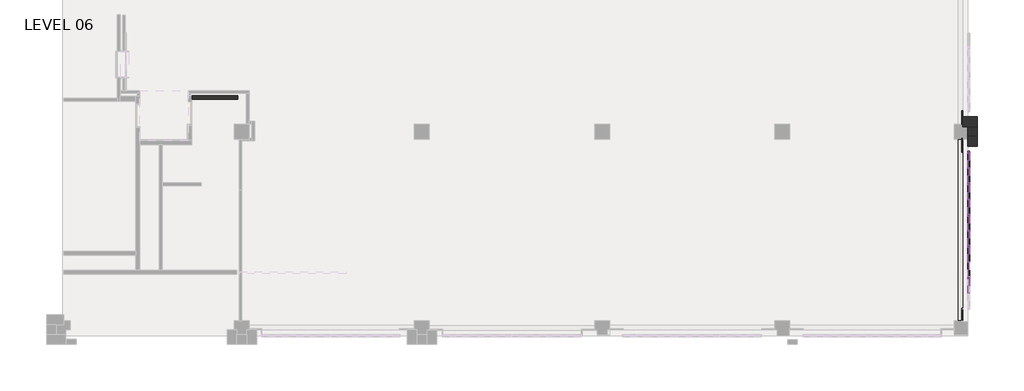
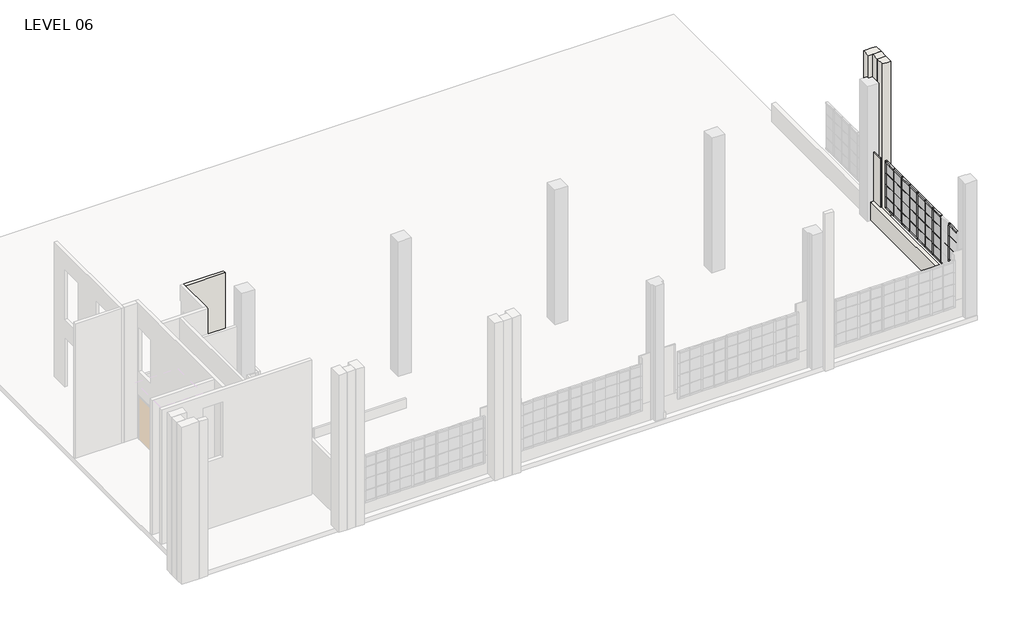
# One storey, part 8 of 16: 79 members, 28 plates, 8 walls.
"""IFC4 building model written with IfcOpenShell, lengths in millimetres."""

from ifc_helpers import new_model, si_unit, frame, origin, place, context, project, spatial, polyline, outline, extrude, faceted_brep, transform, mapped, element, save
from components import member_78bb2ef1, member_bfca4c7d, member_a85bf1d9, member_281dc502, member_68141a5f, member_378e0c06, member_17eb62f4, member_a415275a, member_6dd33a74, member_5f3aadc6, member_e5d968b1, system_panel_glazed_a8cc2c5f, system_panel_glazed_d94367f6, system_panel_glazed_d0043e3c, system_panel_glazed_2b9672ea, system_panel_glazed_0a79d3c6, system_panel_glazed_70833e41, system_panel_glazed_c8d1af00, system_panel_glazed_2e7df24a

model = new_model("IFC4")

# Units and contexts
model_context = context("Model", 3, world=origin())
ifc_project = project(units=[si_unit("LENGTHUNIT", "METRE", prefix="MILLI")], contexts=[model_context])

# Site, building, storey
site = spatial("IfcSite", under=ifc_project)
building = spatial("IfcBuilding", under=site)
storey = spatial("IfcBuildingStorey", under=building, Name="LEVEL 06", Elevation=17449.8)

# Members
placement = place(None, origin())
member_shape = member_78bb2ef1(model_context)
element("IfcMember", 1, ObjectType="Rectangular Mullion : 1\" x 1\" - Butt Joint", at=placement, inside=storey, context=model_context, shape_type="MappedRepresentation", body=[
    mapped(member_shape, transform((-445.6849596, -22116.6772314, 19989.8), x_axis=(0.0, 1.0, 0.0), y_axis=(1.0, 0.0, 0.0), z_axis=(0.0, 0.0, -1.0))),
])
element("IfcMember", 2, ObjectType="Rectangular Mullion : 1\" x 1\" - Butt Joint", at=placement, inside=storey, context=model_context, shape_type="MappedRepresentation", body=[
    mapped(member_shape, transform((-445.6849596, -20845.4072314, 19989.8), x_axis=(0.0, 1.0, 0.0), y_axis=(1.0, 0.0, 0.0), z_axis=(0.0, 0.0, -1.0))),
])
element("IfcMember", 3, ObjectType="Rectangular Mullion : 1\" x 1\" - Butt Joint", at=placement, inside=storey, context=model_context, shape_type="MappedRepresentation", body=[
    mapped(member_shape, transform((-445.6849596, -19574.1372314, 19989.8), x_axis=(0.0, 1.0, 0.0), y_axis=(1.0, 0.0, 0.0), z_axis=(0.0, 0.0, -1.0))),
])
element("IfcMember", 4, ObjectType="Rectangular Mullion : 1\" x 1\" - Butt Joint", at=placement, inside=storey, context=model_context, shape_type="MappedRepresentation", body=[
    mapped(member_shape, transform((-445.6849596, -18283.8172314, 19989.8), x_axis=(0.0, 1.0, 0.0), y_axis=(1.0, 0.0, 0.0), z_axis=(0.0, 0.0, -1.0))),
])
element("IfcMember", 5, ObjectType="Rectangular Mullion : 1\" x 1\" - Butt Joint", at=placement, inside=storey, context=model_context, shape_type="MappedRepresentation", body=[
    mapped(member_shape, transform((-445.6849596, -22116.6772314, 18821.4), x_axis=(0.0, 1.0, 0.0), y_axis=(1.0, 0.0, 0.0), z_axis=(0.0, 0.0, -1.0))),
])
element("IfcMember", 6, ObjectType="Rectangular Mullion : 1\" x 1\" - Butt Joint", at=placement, inside=storey, context=model_context, shape_type="MappedRepresentation", body=[
    mapped(member_shape, transform((-445.6849596, -22116.6772314, 19405.6), x_axis=(0.0, 1.0, 0.0), y_axis=(1.0, 0.0, 0.0), z_axis=(0.0, 0.0, -1.0))),
])
element("IfcMember", 7, ObjectType="Rectangular Mullion : 1\" x 1\" - Butt Joint", at=placement, inside=storey, context=model_context, shape_type="MappedRepresentation", body=[
    mapped(member_shape, transform((-445.6849596, -20845.4072314, 18821.4), x_axis=(0.0, 1.0, 0.0), y_axis=(1.0, 0.0, 0.0), z_axis=(0.0, 0.0, -1.0))),
])
element("IfcMember", 8, ObjectType="Rectangular Mullion : 1\" x 1\" - Butt Joint", at=placement, inside=storey, context=model_context, shape_type="MappedRepresentation", body=[
    mapped(member_shape, transform((-445.6849596, -20845.4072314, 19405.6), x_axis=(0.0, 1.0, 0.0), y_axis=(1.0, 0.0, 0.0), z_axis=(0.0, 0.0, -1.0))),
])
element("IfcMember", 9, ObjectType="Rectangular Mullion : 1\" x 1\" - Butt Joint", at=placement, inside=storey, context=model_context, shape_type="MappedRepresentation", body=[
    mapped(member_shape, transform((-445.6849596, -19574.1372314, 18821.4), x_axis=(0.0, 1.0, 0.0), y_axis=(1.0, 0.0, 0.0), z_axis=(0.0, 0.0, -1.0))),
])
element("IfcMember", 10, ObjectType="Rectangular Mullion : 1\" x 1\" - Butt Joint", at=placement, inside=storey, context=model_context, shape_type="MappedRepresentation", body=[
    mapped(member_shape, transform((-445.6849596, -19574.1372314, 19405.6), x_axis=(0.0, 1.0, 0.0), y_axis=(1.0, 0.0, 0.0), z_axis=(0.0, 0.0, -1.0))),
])
element("IfcMember", 11, ObjectType="Rectangular Mullion : 1\" x 1\" - Butt Joint", at=placement, inside=storey, context=model_context, shape_type="MappedRepresentation", body=[
    mapped(member_shape, transform((-445.6849596, -18283.8172314, 18821.4), x_axis=(0.0, 1.0, 0.0), y_axis=(1.0, 0.0, 0.0), z_axis=(0.0, 0.0, -1.0))),
])
element("IfcMember", 12, ObjectType="Rectangular Mullion : 1\" x 1\" - Butt Joint", at=placement, inside=storey, context=model_context, shape_type="MappedRepresentation", body=[
    mapped(member_shape, transform((-445.6849596, -18283.8172314, 19405.6), x_axis=(0.0, 1.0, 0.0), y_axis=(1.0, 0.0, 0.0), z_axis=(0.0, 0.0, -1.0))),
])
element("IfcMember", 13, ObjectType="Rectangular Mullion : 1\" x 1\" - Butt Joint", at=placement, inside=storey, context=model_context, shape_type="MappedRepresentation", body=[
    mapped(member_shape, transform((-445.6849596, -22116.6772314, 18237.2), x_axis=(0.0, 1.0, 0.0), y_axis=(1.0, 0.0, 0.0), z_axis=(0.0, 0.0, -1.0))),
])
element("IfcMember", 14, ObjectType="Rectangular Mullion : 1\" x 1\" - Butt Joint", at=placement, inside=storey, context=model_context, shape_type="MappedRepresentation", body=[
    mapped(member_shape, transform((-445.6849596, -20845.4072314, 18237.2), x_axis=(0.0, 1.0, 0.0), y_axis=(1.0, 0.0, 0.0), z_axis=(0.0, 0.0, -1.0))),
])
element("IfcMember", 15, ObjectType="Rectangular Mullion : 1\" x 1\" - Butt Joint", at=placement, inside=storey, context=model_context, shape_type="MappedRepresentation", body=[
    mapped(member_shape, transform((-445.6849596, -19574.1372314, 18237.2), x_axis=(0.0, 1.0, 0.0), y_axis=(1.0, 0.0, 0.0), z_axis=(0.0, 0.0, -1.0))),
])
element("IfcMember", 16, ObjectType="Rectangular Mullion : 1\" x 1\" - Butt Joint", at=placement, inside=storey, context=model_context, shape_type="MappedRepresentation", body=[
    mapped(member_shape, transform((-445.6849596, -18283.8172314, 18237.2), x_axis=(0.0, 1.0, 0.0), y_axis=(1.0, 0.0, 0.0), z_axis=(0.0, 0.0, -1.0))),
])
member_2_shape = member_bfca4c7d(model_context)
element("IfcMember", 17, ObjectType="Rectangular Mullion : 1\" x 1\" - Butt Joint", at=placement, inside=storey, context=model_context, shape_type="MappedRepresentation", body=[
    mapped(member_2_shape, transform((-445.6849596, -17676.7572314, 19989.8), x_axis=(0.0, 0.0, 1.0), y_axis=(1.0, 0.0, 0.0), z_axis=(0.0, 1.0, 0.0))),
])
element("IfcMember", 18, ObjectType="Rectangular Mullion : 1\" x 1\" - Butt Joint", at=placement, inside=storey, context=model_context, shape_type="MappedRepresentation", body=[
    mapped(member_2_shape, transform((-445.6849596, -18967.0772314, 19989.8), x_axis=(0.0, 0.0, 1.0), y_axis=(1.0, 0.0, 0.0), z_axis=(0.0, 1.0, 0.0))),
])
element("IfcMember", 19, ObjectType="Rectangular Mullion : 1\" x 1\" - Butt Joint", at=placement, inside=storey, context=model_context, shape_type="MappedRepresentation", body=[
    mapped(member_2_shape, transform((-445.6849596, -21509.6172314, 19989.8), x_axis=(0.0, 0.0, 1.0), y_axis=(1.0, 0.0, 0.0), z_axis=(0.0, 1.0, 0.0))),
])
element("IfcMember", 20, ObjectType="Rectangular Mullion : 1\" x 1\" - Butt Joint", at=placement, inside=storey, context=model_context, shape_type="MappedRepresentation", body=[
    mapped(member_2_shape, transform((-445.6849596, -22799.9372314, 19989.8), x_axis=(0.0, 0.0, 1.0), y_axis=(1.0, 0.0, 0.0), z_axis=(0.0, 1.0, 0.0))),
])
element("IfcMember", 21, ObjectType="Rectangular Mullion : 1\" x 1\" - Butt Joint", at=placement, inside=storey, context=model_context, shape_type="MappedRepresentation", body=[
    mapped(member_2_shape, transform((-445.6849596, -18296.5172314, 19989.8), x_axis=(0.0, 0.0, 1.0), y_axis=(1.0, 0.0, 0.0), z_axis=(0.0, 1.0, 0.0))),
])
element("IfcMember", 22, ObjectType="Rectangular Mullion : 1\" x 1\" - Butt Joint", at=placement, inside=storey, context=model_context, shape_type="MappedRepresentation", body=[
    mapped(member_2_shape, transform((-445.6849596, -22129.3772314, 19989.8), x_axis=(0.0, 0.0, 1.0), y_axis=(1.0, 0.0, 0.0), z_axis=(0.0, 1.0, 0.0))),
])
element("IfcMember", 23, ObjectType="Rectangular Mullion : 1\" x 1\" - Butt Joint", at=placement, inside=storey, context=model_context, shape_type="MappedRepresentation", body=[
    mapped(member_2_shape, transform((-445.6849596, -17676.7572314, 19405.6), x_axis=(0.0, 0.0, 1.0), y_axis=(1.0, 0.0, 0.0), z_axis=(0.0, 1.0, 0.0))),
])
element("IfcMember", 24, ObjectType="Rectangular Mullion : 1\" x 1\" - Butt Joint", at=placement, inside=storey, context=model_context, shape_type="MappedRepresentation", body=[
    mapped(member_2_shape, transform((-445.6849596, -18967.0772314, 19405.6), x_axis=(0.0, 0.0, 1.0), y_axis=(1.0, 0.0, 0.0), z_axis=(0.0, 1.0, 0.0))),
])
element("IfcMember", 25, ObjectType="Rectangular Mullion : 1\" x 1\" - Butt Joint", at=placement, inside=storey, context=model_context, shape_type="MappedRepresentation", body=[
    mapped(member_2_shape, transform((-445.6849596, -21509.6172314, 19405.6), x_axis=(0.0, 0.0, 1.0), y_axis=(1.0, 0.0, 0.0), z_axis=(0.0, 1.0, 0.0))),
])
element("IfcMember", 26, ObjectType="Rectangular Mullion : 1\" x 1\" - Butt Joint", at=placement, inside=storey, context=model_context, shape_type="MappedRepresentation", body=[
    mapped(member_2_shape, transform((-445.6849596, -22799.9372314, 19405.6), x_axis=(0.0, 0.0, 1.0), y_axis=(1.0, 0.0, 0.0), z_axis=(0.0, 1.0, 0.0))),
])
element("IfcMember", 27, ObjectType="Rectangular Mullion : 1\" x 1\" - Butt Joint", at=placement, inside=storey, context=model_context, shape_type="MappedRepresentation", body=[
    mapped(member_2_shape, transform((-445.6849596, -18296.5172314, 19405.6), x_axis=(0.0, 0.0, 1.0), y_axis=(1.0, 0.0, 0.0), z_axis=(0.0, 1.0, 0.0))),
])
element("IfcMember", 28, ObjectType="Rectangular Mullion : 1\" x 1\" - Butt Joint", at=placement, inside=storey, context=model_context, shape_type="MappedRepresentation", body=[
    mapped(member_2_shape, transform((-445.6849596, -22129.3772314, 19405.6), x_axis=(0.0, 0.0, 1.0), y_axis=(1.0, 0.0, 0.0), z_axis=(0.0, 1.0, 0.0))),
])
element("IfcMember", 29, ObjectType="Rectangular Mullion : 1\" x 1\" - Butt Joint", at=placement, inside=storey, context=model_context, shape_type="MappedRepresentation", body=[
    mapped(member_2_shape, transform((-445.6849596, -17676.7572314, 18821.4), x_axis=(0.0, 0.0, 1.0), y_axis=(1.0, 0.0, 0.0), z_axis=(0.0, 1.0, 0.0))),
])
element("IfcMember", 30, ObjectType="Rectangular Mullion : 1\" x 1\" - Butt Joint", at=placement, inside=storey, context=model_context, shape_type="MappedRepresentation", body=[
    mapped(member_2_shape, transform((-445.6849596, -18967.0772314, 18821.4), x_axis=(0.0, 0.0, 1.0), y_axis=(1.0, 0.0, 0.0), z_axis=(0.0, 1.0, 0.0))),
])
element("IfcMember", 31, ObjectType="Rectangular Mullion : 1\" x 1\" - Butt Joint", at=placement, inside=storey, context=model_context, shape_type="MappedRepresentation", body=[
    mapped(member_2_shape, transform((-445.6849596, -21509.6172314, 18821.4), x_axis=(0.0, 0.0, 1.0), y_axis=(1.0, 0.0, 0.0), z_axis=(0.0, 1.0, 0.0))),
])
element("IfcMember", 32, ObjectType="Rectangular Mullion : 1\" x 1\" - Butt Joint", at=placement, inside=storey, context=model_context, shape_type="MappedRepresentation", body=[
    mapped(member_2_shape, transform((-445.6849596, -22799.9372314, 18821.4), x_axis=(0.0, 0.0, 1.0), y_axis=(1.0, 0.0, 0.0), z_axis=(0.0, 1.0, 0.0))),
])
element("IfcMember", 33, ObjectType="Rectangular Mullion : 1\" x 1\" - Butt Joint", at=placement, inside=storey, context=model_context, shape_type="MappedRepresentation", body=[
    mapped(member_2_shape, transform((-445.6849596, -18296.5172314, 18821.4), x_axis=(0.0, 0.0, 1.0), y_axis=(1.0, 0.0, 0.0), z_axis=(0.0, 1.0, 0.0))),
])
element("IfcMember", 34, ObjectType="Rectangular Mullion : 1\" x 1\" - Butt Joint", at=placement, inside=storey, context=model_context, shape_type="MappedRepresentation", body=[
    mapped(member_2_shape, transform((-445.6849596, -22129.3772314, 18821.4), x_axis=(0.0, 0.0, 1.0), y_axis=(1.0, 0.0, 0.0), z_axis=(0.0, 1.0, 0.0))),
])
member_3_shape = member_a85bf1d9(model_context)
element("IfcMember", 35, ObjectType="Rectangular Mullion : 1\" x 1\" - Butt Joint", at=placement, inside=storey, context=model_context, shape_type="MappedRepresentation", body=[
    mapped(member_3_shape, transform((-445.6849596, -20858.1072314, 19989.8), x_axis=(0.0, 0.0, 1.0), y_axis=(1.0, 0.0, 0.0), z_axis=(0.0, 1.0, 0.0))),
])
element("IfcMember", 36, ObjectType="Rectangular Mullion : 1\" x 1\" - Butt Joint", at=placement, inside=storey, context=model_context, shape_type="MappedRepresentation", body=[
    mapped(member_3_shape, transform((-445.6849596, -20858.1072314, 19405.6), x_axis=(0.0, 0.0, 1.0), y_axis=(1.0, 0.0, 0.0), z_axis=(0.0, 1.0, 0.0))),
])
element("IfcMember", 37, ObjectType="Rectangular Mullion : 1\" x 1\" - Butt Joint", at=placement, inside=storey, context=model_context, shape_type="MappedRepresentation", body=[
    mapped(member_3_shape, transform((-445.6849596, -20858.1072314, 18821.4), x_axis=(0.0, 0.0, 1.0), y_axis=(1.0, 0.0, 0.0), z_axis=(0.0, 1.0, 0.0))),
])
member_4_shape = member_281dc502(model_context)
element("IfcMember", 38, ObjectType="Rectangular Mullion : 1\" x 1\" - Butt Joint", at=placement, inside=storey, context=model_context, shape_type="MappedRepresentation", body=[
    mapped(member_4_shape, transform((-445.6849596, -20244.6972314, 19989.8), x_axis=(0.0, 0.0, 1.0), y_axis=(1.0, 0.0, 0.0), z_axis=(0.0, 1.0, 0.0))),
])
element("IfcMember", 39, ObjectType="Rectangular Mullion : 1\" x 1\" - Butt Joint", at=placement, inside=storey, context=model_context, shape_type="MappedRepresentation", body=[
    mapped(member_4_shape, transform((-445.6849596, -20244.6972314, 19405.6), x_axis=(0.0, 0.0, 1.0), y_axis=(1.0, 0.0, 0.0), z_axis=(0.0, 1.0, 0.0))),
])
element("IfcMember", 40, ObjectType="Rectangular Mullion : 1\" x 1\" - Butt Joint", at=placement, inside=storey, context=model_context, shape_type="MappedRepresentation", body=[
    mapped(member_4_shape, transform((-445.6849596, -20244.6972314, 18821.4), x_axis=(0.0, 0.0, 1.0), y_axis=(1.0, 0.0, 0.0), z_axis=(0.0, 1.0, 0.0))),
])
member_5_shape = member_68141a5f(model_context)
element("IfcMember", 41, ObjectType="Rectangular Mullion : 1\" x 1\" - Butt Joint", at=placement, inside=storey, context=model_context, shape_type="MappedRepresentation", body=[
    mapped(member_5_shape, transform((-445.6849596, -19586.8372314, 19989.8), x_axis=(0.0, 0.0, 1.0), y_axis=(1.0, 0.0, 0.0), z_axis=(0.0, 1.0, 0.0))),
])
element("IfcMember", 42, ObjectType="Rectangular Mullion : 1\" x 1\" - Butt Joint", at=placement, inside=storey, context=model_context, shape_type="MappedRepresentation", body=[
    mapped(member_5_shape, transform((-445.6849596, -19586.8372314, 19405.6), x_axis=(0.0, 0.0, 1.0), y_axis=(1.0, 0.0, 0.0), z_axis=(0.0, 1.0, 0.0))),
])
element("IfcMember", 43, ObjectType="Rectangular Mullion : 1\" x 1\" - Butt Joint", at=placement, inside=storey, context=model_context, shape_type="MappedRepresentation", body=[
    mapped(member_5_shape, transform((-445.6849596, -19586.8372314, 18821.4), x_axis=(0.0, 0.0, 1.0), y_axis=(1.0, 0.0, 0.0), z_axis=(0.0, 1.0, 0.0))),
])
member_6_shape = member_378e0c06(model_context)
element("IfcMember", 44, ObjectType="Rectangular Mullion : 3\" x 3\" Window Jamb", at=placement, inside=storey, context=model_context, shape_type="MappedRepresentation", body=[
    mapped(member_6_shape, transform((-445.6849596, -22761.8372314, 19989.8), x_axis=(0.0, 1.0, 0.0), y_axis=(1.0, 0.0, 0.0), z_axis=(0.0, 0.0, -1.0))),
])
element("IfcMember", 45, ObjectType="Rectangular Mullion : 3\" x 3\" Window Jamb", at=placement, inside=storey, context=model_context, shape_type="MappedRepresentation", body=[
    mapped(member_6_shape, transform((-445.6849596, -21471.5172314, 19989.8), x_axis=(0.0, 1.0, 0.0), y_axis=(1.0, 0.0, 0.0), z_axis=(0.0, 0.0, -1.0))),
])
element("IfcMember", 46, ObjectType="Rectangular Mullion : 3\" x 3\" Window Jamb", at=placement, inside=storey, context=model_context, shape_type="MappedRepresentation", body=[
    mapped(member_6_shape, transform((-445.6849596, -20206.5972314, 19989.8), x_axis=(0.0, 1.0, 0.0), y_axis=(1.0, 0.0, 0.0), z_axis=(0.0, 0.0, -1.0))),
])
element("IfcMember", 47, ObjectType="Rectangular Mullion : 3\" x 3\" Window Jamb", at=placement, inside=storey, context=model_context, shape_type="MappedRepresentation", body=[
    mapped(member_6_shape, transform((-445.6849596, -18928.9772314, 19989.8), x_axis=(0.0, 1.0, 0.0), y_axis=(1.0, 0.0, 0.0), z_axis=(0.0, 0.0, -1.0))),
])
member_7_shape = member_17eb62f4(model_context)
element("IfcMember", 48, ObjectType="Rectangular Mullion : 3\" x 3\" Window Jamb", at=placement, inside=storey, context=model_context, shape_type="MappedRepresentation", body=[
    mapped(member_7_shape, transform((-445.6849596, -17600.5572314, 19989.8), x_axis=(0.0, 1.0, 0.0), y_axis=(1.0, 0.0, 0.0), z_axis=(0.0, 0.0, -1.0))),
])
element("IfcMember", 49, ObjectType="Rectangular Mullion : 3\" x 3\" Window Jamb", at=placement, inside=storey, context=model_context, shape_type="MappedRepresentation", body=[
    mapped(member_6_shape, transform((-445.6849596, -22761.8372314, 18821.4), x_axis=(0.0, 1.0, 0.0), y_axis=(1.0, 0.0, 0.0), z_axis=(0.0, 0.0, -1.0))),
])
element("IfcMember", 50, ObjectType="Rectangular Mullion : 3\" x 3\" Window Jamb", at=placement, inside=storey, context=model_context, shape_type="MappedRepresentation", body=[
    mapped(member_6_shape, transform((-445.6849596, -22761.8372314, 19405.6), x_axis=(0.0, 1.0, 0.0), y_axis=(1.0, 0.0, 0.0), z_axis=(0.0, 0.0, -1.0))),
])
element("IfcMember", 51, ObjectType="Rectangular Mullion : 3\" x 3\" Window Jamb", at=placement, inside=storey, context=model_context, shape_type="MappedRepresentation", body=[
    mapped(member_6_shape, transform((-445.6849596, -21471.5172314, 18821.4), x_axis=(0.0, 1.0, 0.0), y_axis=(1.0, 0.0, 0.0), z_axis=(0.0, 0.0, -1.0))),
])
element("IfcMember", 52, ObjectType="Rectangular Mullion : 3\" x 3\" Window Jamb", at=placement, inside=storey, context=model_context, shape_type="MappedRepresentation", body=[
    mapped(member_6_shape, transform((-445.6849596, -21471.5172314, 19405.6), x_axis=(0.0, 1.0, 0.0), y_axis=(1.0, 0.0, 0.0), z_axis=(0.0, 0.0, -1.0))),
])
element("IfcMember", 53, ObjectType="Rectangular Mullion : 3\" x 3\" Window Jamb", at=placement, inside=storey, context=model_context, shape_type="MappedRepresentation", body=[
    mapped(member_6_shape, transform((-445.6849596, -20206.5972314, 18821.4), x_axis=(0.0, 1.0, 0.0), y_axis=(1.0, 0.0, 0.0), z_axis=(0.0, 0.0, -1.0))),
])
element("IfcMember", 54, ObjectType="Rectangular Mullion : 3\" x 3\" Window Jamb", at=placement, inside=storey, context=model_context, shape_type="MappedRepresentation", body=[
    mapped(member_6_shape, transform((-445.6849596, -20206.5972314, 19405.6), x_axis=(0.0, 1.0, 0.0), y_axis=(1.0, 0.0, 0.0), z_axis=(0.0, 0.0, -1.0))),
])
element("IfcMember", 55, ObjectType="Rectangular Mullion : 3\" x 3\" Window Jamb", at=placement, inside=storey, context=model_context, shape_type="MappedRepresentation", body=[
    mapped(member_6_shape, transform((-445.6849596, -18928.9772314, 18821.4), x_axis=(0.0, 1.0, 0.0), y_axis=(1.0, 0.0, 0.0), z_axis=(0.0, 0.0, -1.0))),
])
element("IfcMember", 56, ObjectType="Rectangular Mullion : 3\" x 3\" Window Jamb", at=placement, inside=storey, context=model_context, shape_type="MappedRepresentation", body=[
    mapped(member_6_shape, transform((-445.6849596, -18928.9772314, 19405.6), x_axis=(0.0, 1.0, 0.0), y_axis=(1.0, 0.0, 0.0), z_axis=(0.0, 0.0, -1.0))),
])
element("IfcMember", 57, ObjectType="Rectangular Mullion : 3\" x 3\" Window Jamb", at=placement, inside=storey, context=model_context, shape_type="MappedRepresentation", body=[
    mapped(member_7_shape, transform((-445.6849596, -17600.5572314, 18821.4), x_axis=(0.0, 1.0, 0.0), y_axis=(1.0, 0.0, 0.0), z_axis=(0.0, 0.0, -1.0))),
])
element("IfcMember", 58, ObjectType="Rectangular Mullion : 3\" x 3\" Window Jamb", at=placement, inside=storey, context=model_context, shape_type="MappedRepresentation", body=[
    mapped(member_7_shape, transform((-445.6849596, -17600.5572314, 19405.6), x_axis=(0.0, 1.0, 0.0), y_axis=(1.0, 0.0, 0.0), z_axis=(0.0, 0.0, -1.0))),
])
element("IfcMember", 59, ObjectType="Rectangular Mullion : 3\" x 3\" Window Jamb", at=placement, inside=storey, context=model_context, shape_type="MappedRepresentation", body=[
    mapped(member_6_shape, transform((-445.6849596, -22761.8372314, 18237.2), x_axis=(0.0, 1.0, 0.0), y_axis=(1.0, 0.0, 0.0), z_axis=(0.0, 0.0, -1.0))),
])
element("IfcMember", 60, ObjectType="Rectangular Mullion : 3\" x 3\" Window Jamb", at=placement, inside=storey, context=model_context, shape_type="MappedRepresentation", body=[
    mapped(member_6_shape, transform((-445.6849596, -21471.5172314, 18237.2), x_axis=(0.0, 1.0, 0.0), y_axis=(1.0, 0.0, 0.0), z_axis=(0.0, 0.0, -1.0))),
])
element("IfcMember", 61, ObjectType="Rectangular Mullion : 3\" x 3\" Window Jamb", at=placement, inside=storey, context=model_context, shape_type="MappedRepresentation", body=[
    mapped(member_6_shape, transform((-445.6849596, -20206.5972314, 18237.2), x_axis=(0.0, 1.0, 0.0), y_axis=(1.0, 0.0, 0.0), z_axis=(0.0, 0.0, -1.0))),
])
element("IfcMember", 62, ObjectType="Rectangular Mullion : 3\" x 3\" Window Jamb", at=placement, inside=storey, context=model_context, shape_type="MappedRepresentation", body=[
    mapped(member_6_shape, transform((-445.6849596, -18928.9772314, 18237.2), x_axis=(0.0, 1.0, 0.0), y_axis=(1.0, 0.0, 0.0), z_axis=(0.0, 0.0, -1.0))),
])
element("IfcMember", 63, ObjectType="Rectangular Mullion : 3\" x 3\" Window Jamb", at=placement, inside=storey, context=model_context, shape_type="MappedRepresentation", body=[
    mapped(member_7_shape, transform((-445.6849596, -17600.5572314, 18237.2), x_axis=(0.0, 1.0, 0.0), y_axis=(1.0, 0.0, 0.0), z_axis=(0.0, 0.0, -1.0))),
])
member_8_shape = member_a415275a(model_context)
element("IfcMember", 64, ObjectType="Rectangular Mullion : 3\" x 3\" Window Jamb", at=placement, inside=storey, context=model_context, shape_type="MappedRepresentation", body=[
    mapped(member_8_shape, transform((-445.6849596, -18296.5172314, 20574.0), x_axis=(0.0, 0.0, 1.0), y_axis=(1.0, 0.0, 0.0), z_axis=(0.0, 1.0, 0.0))),
])
element("IfcMember", 65, ObjectType="Rectangular Mullion : 3\" x 3\" Window Jamb", at=placement, inside=storey, context=model_context, shape_type="MappedRepresentation", body=[
    mapped(member_8_shape, transform((-445.6849596, -18967.0772314, 20574.0), x_axis=(0.0, 0.0, 1.0), y_axis=(1.0, 0.0, 0.0), z_axis=(0.0, 1.0, 0.0))),
])
element("IfcMember", 66, ObjectType="Rectangular Mullion : 3\" x 3\" Window Jamb", at=placement, inside=storey, context=model_context, shape_type="MappedRepresentation", body=[
    mapped(member_8_shape, transform((-445.6849596, -21509.6172314, 20574.0), x_axis=(0.0, 0.0, 1.0), y_axis=(1.0, 0.0, 0.0), z_axis=(0.0, 1.0, 0.0))),
])
element("IfcMember", 67, ObjectType="Rectangular Mullion : 3\" x 3\" Window Jamb", at=placement, inside=storey, context=model_context, shape_type="MappedRepresentation", body=[
    mapped(member_8_shape, transform((-445.6849596, -22799.9372314, 20574.0), x_axis=(0.0, 0.0, 1.0), y_axis=(1.0, 0.0, 0.0), z_axis=(0.0, 1.0, 0.0))),
])
element("IfcMember", 68, ObjectType="Rectangular Mullion : 3\" x 3\" Window Jamb", at=placement, inside=storey, context=model_context, shape_type="MappedRepresentation", body=[
    mapped(member_8_shape, transform((-445.6849596, -17676.7572314, 20574.0), x_axis=(0.0, 0.0, 1.0), y_axis=(1.0, 0.0, 0.0), z_axis=(0.0, 1.0, 0.0))),
])
element("IfcMember", 69, ObjectType="Rectangular Mullion : 3\" x 3\" Window Jamb", at=placement, inside=storey, context=model_context, shape_type="MappedRepresentation", body=[
    mapped(member_8_shape, transform((-445.6849596, -18271.1172314, 18237.2), x_axis=(0.0, 0.0, -1.0), y_axis=(1.0, 0.0, 0.0), z_axis=(0.0, -1.0, 0.0))),
])
element("IfcMember", 70, ObjectType="Rectangular Mullion : 3\" x 3\" Window Jamb", at=placement, inside=storey, context=model_context, shape_type="MappedRepresentation", body=[
    mapped(member_8_shape, transform((-445.6849596, -19561.4372314, 18237.2), x_axis=(0.0, 0.0, -1.0), y_axis=(1.0, 0.0, 0.0), z_axis=(0.0, -1.0, 0.0))),
])
element("IfcMember", 71, ObjectType="Rectangular Mullion : 3\" x 3\" Window Jamb", at=placement, inside=storey, context=model_context, shape_type="MappedRepresentation", body=[
    mapped(member_8_shape, transform((-445.6849596, -22103.9772314, 18237.2), x_axis=(0.0, 0.0, -1.0), y_axis=(1.0, 0.0, 0.0), z_axis=(0.0, -1.0, 0.0))),
])
element("IfcMember", 72, ObjectType="Rectangular Mullion : 3\" x 3\" Window Jamb", at=placement, inside=storey, context=model_context, shape_type="MappedRepresentation", body=[
    mapped(member_8_shape, transform((-445.6849596, -18890.8772314, 18237.2), x_axis=(0.0, 0.0, -1.0), y_axis=(1.0, 0.0, 0.0), z_axis=(0.0, -1.0, 0.0))),
])
element("IfcMember", 73, ObjectType="Rectangular Mullion : 3\" x 3\" Window Jamb", at=placement, inside=storey, context=model_context, shape_type="MappedRepresentation", body=[
    mapped(member_8_shape, transform((-445.6849596, -22723.7372314, 18237.2), x_axis=(0.0, 0.0, -1.0), y_axis=(1.0, 0.0, 0.0), z_axis=(0.0, -1.0, 0.0))),
])
member_9_shape = member_6dd33a74(model_context)
element("IfcMember", 74, ObjectType="Rectangular Mullion : 3\" x 3\" Window Jamb", at=placement, inside=storey, context=model_context, shape_type="MappedRepresentation", body=[
    mapped(member_9_shape, transform((-445.6849596, -20858.1072314, 20574.0), x_axis=(0.0, 0.0, 1.0), y_axis=(1.0, 0.0, 0.0), z_axis=(0.0, 1.0, 0.0))),
])
element("IfcMember", 75, ObjectType="Rectangular Mullion : 3\" x 3\" Window Jamb", at=placement, inside=storey, context=model_context, shape_type="MappedRepresentation", body=[
    mapped(member_9_shape, transform((-445.6849596, -21433.4172314, 18237.2), x_axis=(0.0, 0.0, -1.0), y_axis=(1.0, 0.0, 0.0), z_axis=(0.0, -1.0, 0.0))),
])
member_10_shape = member_5f3aadc6(model_context)
element("IfcMember", 76, ObjectType="Rectangular Mullion : 3\" x 3\" Window Jamb", at=placement, inside=storey, context=model_context, shape_type="MappedRepresentation", body=[
    mapped(member_10_shape, transform((-445.6849596, -20244.6972314, 20574.0), x_axis=(0.0, 0.0, 1.0), y_axis=(1.0, 0.0, 0.0), z_axis=(0.0, 1.0, 0.0))),
])
element("IfcMember", 77, ObjectType="Rectangular Mullion : 3\" x 3\" Window Jamb", at=placement, inside=storey, context=model_context, shape_type="MappedRepresentation", body=[
    mapped(member_10_shape, transform((-445.6849596, -20832.7072314, 18237.2), x_axis=(0.0, 0.0, -1.0), y_axis=(1.0, 0.0, 0.0), z_axis=(0.0, -1.0, 0.0))),
])
member_11_shape = member_e5d968b1(model_context)
element("IfcMember", 78, ObjectType="Rectangular Mullion : 3\" x 3\" Window Jamb", at=placement, inside=storey, context=model_context, shape_type="MappedRepresentation", body=[
    mapped(member_11_shape, transform((-445.6849596, -19586.8372314, 20574.0), x_axis=(0.0, 0.0, 1.0), y_axis=(1.0, 0.0, 0.0), z_axis=(0.0, 1.0, 0.0))),
])
element("IfcMember", 79, ObjectType="Rectangular Mullion : 3\" x 3\" Window Jamb", at=placement, inside=storey, context=model_context, shape_type="MappedRepresentation", body=[
    mapped(member_11_shape, transform((-445.6849596, -20168.4972314, 18237.2), x_axis=(0.0, 0.0, -1.0), y_axis=(1.0, 0.0, 0.0), z_axis=(0.0, -1.0, 0.0))),
])

# Plates
system_panel_glazed_shape = system_panel_glazed_a8cc2c5f(model_context)
element("IfcPlate", 80, ObjectType="System Panel : Glazed", at=placement, inside=storey, context=model_context, shape_type="MappedRepresentation", body=[
    mapped(system_panel_glazed_shape, transform((-445.6849596, -18593.6972314, 18313.4), x_axis=(0.0, 1.0, 0.0), y_axis=(-1.0, 0.0, 0.0), z_axis=(0.0, 0.0, 1.0))),
])
element("IfcPlate", 81, ObjectType="System Panel : Glazed", at=placement, inside=storey, context=model_context, shape_type="MappedRepresentation", body=[
    mapped(system_panel_glazed_shape, transform((-445.6849596, -18593.6972314, 20002.5), x_axis=(0.0, 1.0, 0.0), y_axis=(-1.0, 0.0, 0.0), z_axis=(0.0, 0.0, 1.0))),
])
element("IfcPlate", 82, ObjectType="System Panel : Glazed", at=placement, inside=storey, context=model_context, shape_type="MappedRepresentation", body=[
    mapped(system_panel_glazed_shape, transform((-445.6849596, -21806.7972314, 18313.4), x_axis=(0.0, 1.0, 0.0), y_axis=(-1.0, 0.0, 0.0), z_axis=(0.0, 0.0, 1.0))),
])
element("IfcPlate", 83, ObjectType="System Panel : Glazed", at=placement, inside=storey, context=model_context, shape_type="MappedRepresentation", body=[
    mapped(system_panel_glazed_shape, transform((-445.6849596, -21806.7972314, 20002.5), x_axis=(0.0, 1.0, 0.0), y_axis=(-1.0, 0.0, 0.0), z_axis=(0.0, 0.0, 1.0))),
])
element("IfcPlate", 84, ObjectType="System Panel : Glazed", at=placement, inside=storey, context=model_context, shape_type="MappedRepresentation", body=[
    mapped(system_panel_glazed_shape, transform((-445.6849596, -19264.2572314, 18313.4), x_axis=(0.0, 1.0, 0.0), y_axis=(-1.0, 0.0, 0.0), z_axis=(0.0, 0.0, 1.0))),
])
element("IfcPlate", 85, ObjectType="System Panel : Glazed", at=placement, inside=storey, context=model_context, shape_type="MappedRepresentation", body=[
    mapped(system_panel_glazed_shape, transform((-445.6849596, -19264.2572314, 20002.5), x_axis=(0.0, 1.0, 0.0), y_axis=(-1.0, 0.0, 0.0), z_axis=(0.0, 0.0, 1.0))),
])
element("IfcPlate", 86, ObjectType="System Panel : Glazed", at=placement, inside=storey, context=model_context, shape_type="MappedRepresentation", body=[
    mapped(system_panel_glazed_shape, transform((-445.6849596, -17973.9372314, 18313.4), x_axis=(0.0, 1.0, 0.0), y_axis=(-1.0, 0.0, 0.0), z_axis=(0.0, 0.0, 1.0))),
])
element("IfcPlate", 87, ObjectType="System Panel : Glazed", at=placement, inside=storey, context=model_context, shape_type="MappedRepresentation", body=[
    mapped(system_panel_glazed_shape, transform((-445.6849596, -17973.9372314, 20002.5), x_axis=(0.0, 1.0, 0.0), y_axis=(-1.0, 0.0, 0.0), z_axis=(0.0, 0.0, 1.0))),
])
system_panel_glazed_2_shape = system_panel_glazed_d94367f6(model_context)
element("IfcPlate", 88, ObjectType="System Panel : Glazed", at=placement, inside=storey, context=model_context, shape_type="MappedRepresentation", body=[
    mapped(system_panel_glazed_2_shape, transform((-445.6849596, -18593.6972314, 19418.3), x_axis=(0.0, 1.0, 0.0), y_axis=(-1.0, 0.0, 0.0), z_axis=(0.0, 0.0, 1.0))),
])
element("IfcPlate", 89, ObjectType="System Panel : Glazed", at=placement, inside=storey, context=model_context, shape_type="MappedRepresentation", body=[
    mapped(system_panel_glazed_2_shape, transform((-445.6849596, -18593.6972314, 18834.1), x_axis=(0.0, 1.0, 0.0), y_axis=(-1.0, 0.0, 0.0), z_axis=(0.0, 0.0, 1.0))),
])
element("IfcPlate", 90, ObjectType="System Panel : Glazed", at=placement, inside=storey, context=model_context, shape_type="MappedRepresentation", body=[
    mapped(system_panel_glazed_2_shape, transform((-445.6849596, -21806.7972314, 18834.1), x_axis=(0.0, 1.0, 0.0), y_axis=(-1.0, 0.0, 0.0), z_axis=(0.0, 0.0, 1.0))),
])
element("IfcPlate", 91, ObjectType="System Panel : Glazed", at=placement, inside=storey, context=model_context, shape_type="MappedRepresentation", body=[
    mapped(system_panel_glazed_2_shape, transform((-445.6849596, -21806.7972314, 19418.3), x_axis=(0.0, 1.0, 0.0), y_axis=(-1.0, 0.0, 0.0), z_axis=(0.0, 0.0, 1.0))),
])
element("IfcPlate", 92, ObjectType="System Panel : Glazed", at=placement, inside=storey, context=model_context, shape_type="MappedRepresentation", body=[
    mapped(system_panel_glazed_2_shape, transform((-445.6849596, -19264.2572314, 18834.1), x_axis=(0.0, 1.0, 0.0), y_axis=(-1.0, 0.0, 0.0), z_axis=(0.0, 0.0, 1.0))),
])
element("IfcPlate", 93, ObjectType="System Panel : Glazed", at=placement, inside=storey, context=model_context, shape_type="MappedRepresentation", body=[
    mapped(system_panel_glazed_2_shape, transform((-445.6849596, -19264.2572314, 19418.3), x_axis=(0.0, 1.0, 0.0), y_axis=(-1.0, 0.0, 0.0), z_axis=(0.0, 0.0, 1.0))),
])
element("IfcPlate", 94, ObjectType="System Panel : Glazed", at=placement, inside=storey, context=model_context, shape_type="MappedRepresentation", body=[
    mapped(system_panel_glazed_2_shape, transform((-445.6849596, -17973.9372314, 18834.1), x_axis=(0.0, 1.0, 0.0), y_axis=(-1.0, 0.0, 0.0), z_axis=(0.0, 0.0, 1.0))),
])
element("IfcPlate", 95, ObjectType="System Panel : Glazed", at=placement, inside=storey, context=model_context, shape_type="MappedRepresentation", body=[
    mapped(system_panel_glazed_2_shape, transform((-445.6849596, -17973.9372314, 19418.3), x_axis=(0.0, 1.0, 0.0), y_axis=(-1.0, 0.0, 0.0), z_axis=(0.0, 0.0, 1.0))),
])
system_panel_glazed_3_shape = system_panel_glazed_d0043e3c(model_context)
element("IfcPlate", 96, ObjectType="System Panel : Glazed", at=placement, inside=storey, context=model_context, shape_type="MappedRepresentation", body=[
    mapped(system_panel_glazed_3_shape, transform((-445.6849596, -21145.7622314, 18313.4), x_axis=(0.0, 1.0, 0.0), y_axis=(-1.0, 0.0, 0.0), z_axis=(0.0, 0.0, 1.0))),
])
element("IfcPlate", 97, ObjectType="System Panel : Glazed", at=placement, inside=storey, context=model_context, shape_type="MappedRepresentation", body=[
    mapped(system_panel_glazed_3_shape, transform((-445.6849596, -21145.7622314, 20002.5), x_axis=(0.0, 1.0, 0.0), y_axis=(-1.0, 0.0, 0.0), z_axis=(0.0, 0.0, 1.0))),
])
system_panel_glazed_4_shape = system_panel_glazed_2b9672ea(model_context)
element("IfcPlate", 98, ObjectType="System Panel : Glazed", at=placement, inside=storey, context=model_context, shape_type="MappedRepresentation", body=[
    mapped(system_panel_glazed_4_shape, transform((-445.6849596, -19877.6672314, 18313.4), x_axis=(0.0, 1.0, 0.0), y_axis=(-1.0, 0.0, 0.0), z_axis=(0.0, 0.0, 1.0))),
])
element("IfcPlate", 99, ObjectType="System Panel : Glazed", at=placement, inside=storey, context=model_context, shape_type="MappedRepresentation", body=[
    mapped(system_panel_glazed_4_shape, transform((-445.6849596, -19877.6672314, 20002.5), x_axis=(0.0, 1.0, 0.0), y_axis=(-1.0, 0.0, 0.0), z_axis=(0.0, 0.0, 1.0))),
])
system_panel_glazed_5_shape = system_panel_glazed_0a79d3c6(model_context)
element("IfcPlate", 100, ObjectType="System Panel : Glazed", at=placement, inside=storey, context=model_context, shape_type="MappedRepresentation", body=[
    mapped(system_panel_glazed_5_shape, transform((-445.6849596, -21145.7622314, 19418.3), x_axis=(0.0, 1.0, 0.0), y_axis=(-1.0, 0.0, 0.0), z_axis=(0.0, 0.0, 1.0))),
])
element("IfcPlate", 101, ObjectType="System Panel : Glazed", at=placement, inside=storey, context=model_context, shape_type="MappedRepresentation", body=[
    mapped(system_panel_glazed_5_shape, transform((-445.6849596, -21145.7622314, 18834.1), x_axis=(0.0, 1.0, 0.0), y_axis=(-1.0, 0.0, 0.0), z_axis=(0.0, 0.0, 1.0))),
])
system_panel_glazed_6_shape = system_panel_glazed_70833e41(model_context)
element("IfcPlate", 102, ObjectType="System Panel : Glazed", at=placement, inside=storey, context=model_context, shape_type="MappedRepresentation", body=[
    mapped(system_panel_glazed_6_shape, transform((-445.6849596, -19877.6672314, 19418.3), x_axis=(0.0, 1.0, 0.0), y_axis=(-1.0, 0.0, 0.0), z_axis=(0.0, 0.0, 1.0))),
])
element("IfcPlate", 103, ObjectType="System Panel : Glazed", at=placement, inside=storey, context=model_context, shape_type="MappedRepresentation", body=[
    mapped(system_panel_glazed_6_shape, transform((-445.6849596, -19877.6672314, 18834.1), x_axis=(0.0, 1.0, 0.0), y_axis=(-1.0, 0.0, 0.0), z_axis=(0.0, 0.0, 1.0))),
])
system_panel_glazed_7_shape = system_panel_glazed_c8d1af00(model_context)
element("IfcPlate", 104, ObjectType="System Panel : Glazed", at=placement, inside=storey, context=model_context, shape_type="MappedRepresentation", body=[
    mapped(system_panel_glazed_7_shape, transform((-445.6849596, -20538.7022314, 18313.4), x_axis=(0.0, 1.0, 0.0), y_axis=(-1.0, 0.0, 0.0), z_axis=(0.0, 0.0, 1.0))),
])
element("IfcPlate", 105, ObjectType="System Panel : Glazed", at=placement, inside=storey, context=model_context, shape_type="MappedRepresentation", body=[
    mapped(system_panel_glazed_7_shape, transform((-445.6849596, -20538.7022314, 20002.5), x_axis=(0.0, 1.0, 0.0), y_axis=(-1.0, 0.0, 0.0), z_axis=(0.0, 0.0, 1.0))),
])
system_panel_glazed_8_shape = system_panel_glazed_2e7df24a(model_context)
element("IfcPlate", 106, ObjectType="System Panel : Glazed", at=placement, inside=storey, context=model_context, shape_type="MappedRepresentation", body=[
    mapped(system_panel_glazed_8_shape, transform((-445.6849596, -20538.7022314, 18834.1), x_axis=(0.0, 1.0, 0.0), y_axis=(-1.0, 0.0, 0.0), z_axis=(0.0, 0.0, 1.0))),
])
element("IfcPlate", 107, ObjectType="System Panel : Glazed", at=placement, inside=storey, context=model_context, shape_type="MappedRepresentation", body=[
    mapped(system_panel_glazed_8_shape, transform((-445.6849596, -20538.7022314, 19418.3), x_axis=(0.0, 1.0, 0.0), y_axis=(-1.0, 0.0, 0.0), z_axis=(0.0, 0.0, 1.0))),
])

# Walls
element("IfcWall", 108, ObjectType="Generic Exterior - Brick Three Wythe", at=placement, inside=storey, context=model_context, shape_type="Brep", body=[
    faceted_brep([(-677.4599596, -16593.0613171, 17449.8), (-480.6099596, -16593.0613171, 17449.8), (-80.5599596, -16593.0613171, 17449.8), (-80.5599596, -16593.0613171, 25273.0), (-480.6099596, -16593.0613171, 25273.0), (-677.4599596, -16593.0613171, 25273.0), (-677.4599596, -16593.0613171, 24155.4), (-677.4599596, -16193.0113171, 17449.8), (-677.4599596, -16193.0113171, 25273.0), (-277.4099596, -16193.0113171, 25273.0), (-80.5599596, -16193.0113171, 25273.0), (-80.5599596, -16193.0113171, 17449.8), (-677.4599596, -16499.9101345, 17449.8)], [[[0, 1, 2, 3, 4, 5, 6]], [[7, 8, 9, 10, 11]], [[2, 1, 0, 12, 7, 11]], [[5, 4, 3, 10, 9, 8]], [[0, 6, 5, 8, 7, 12]], [[3, 2, 11, 10]]]),
])
element("IfcWall", 109, ObjectType="Generic Exterior - Brick Three Wythe", at=placement, inside=storey, context=model_context, shape_type="Brep", body=[
    faceted_brep([(-480.6099596, -16593.0613171, 17449.8), (-480.6099596, -16984.3185128, 17449.8), (-480.6099596, -16984.3185128, 24155.4), (-480.6099596, -16984.3185128, 25273.0), (-480.6099596, -16593.0613171, 25273.0), (-480.6099596, -16593.0613171, 24155.4), (-80.5599596, -16593.0613171, 17449.8), (-80.5599596, -16593.0613171, 25273.0), (-80.5599596, -16984.3185128, 25273.0), (-80.5599596, -16984.3185128, 17449.8)], [[[0, 1, 2, 3, 4, 5]], [[6, 7, 8, 9]], [[1, 0, 6, 9]], [[4, 3, 8, 7]], [[0, 5, 4, 7, 6]], [[3, 2, 1, 9, 8]]]),
])
element("IfcWall", 110, ObjectType="Generic Exterior - Brick Three Wythe", at=placement, inside=storey, context=model_context, shape_type="Brep", body=[
    faceted_brep([(-80.5599596, -16984.3185128, 17449.8), (-480.6099596, -16984.3185128, 17449.8), (-483.7849596, -16984.3185128, 17449.8), (-483.7849596, -16984.3185128, 24155.4), (-483.7849596, -16984.3185128, 25273.0), (-480.6099596, -16984.3185128, 25273.0), (-80.5599596, -16984.3185128, 25273.0), (-80.5599596, -17384.3685128, 17449.8), (-80.5599596, -17384.3685128, 25273.0), (-283.7599596, -17384.3685128, 25273.0), (-483.7849596, -17384.3685128, 25273.0), (-483.7849596, -17384.3685128, 17449.8), (-483.7849596, -17109.5101345, 17449.8)], [[[0, 1, 2, 3, 4, 5, 6]], [[7, 8, 9, 10, 11]], [[2, 1, 0, 7, 11, 12]], [[4, 3, 2, 12, 11, 10]], [[6, 5, 4, 10, 9, 8]], [[0, 6, 8, 7]]]),
])
element("IfcWall", 111, ObjectType="Generic Existing Interior Partition - 6\"", at=placement, inside=storey, context=model_context, shape_type="Brep", body=[
    faceted_brep([(-32162.3623534, -15472.5419725, 17449.8), (-30287.5099596, -15472.5419725, 17449.8), (-30287.5099596, -15472.5419725, 24155.4), (-32162.3623534, -15472.5419725, 24155.4), (-32162.3623534, -15472.5419725, 23393.4), (-32162.3623534, -15472.5419725, 20802.6), (-32162.3623534, -15320.1419725, 17449.8), (-32162.3623534, -15320.1419725, 20802.6), (-32202.0472362, -15320.1419725, 20802.6), (-32202.0472362, -15320.1419725, 23393.4), (-32162.3623534, -15320.1419725, 23393.4), (-32162.3623534, -15320.1419725, 24155.4), (-30287.5099596, -15320.1419725, 24155.4), (-30287.5099596, -15320.1419725, 17449.8), (-32162.3623534, -15396.3419725, 20802.6), (-32202.0472362, -15396.3419725, 20802.6), (-32162.3623534, -15396.3419725, 23393.4), (-32202.0472362, -15396.3419725, 23393.4)], [[[0, 1, 2, 3, 4, 5]], [[6, 7, 8, 9, 10, 11, 12, 13]], [[1, 0, 6, 13]], [[2, 1, 13, 12]], [[3, 2, 12, 11]], [[14, 15, 8, 7]], [[0, 5, 14, 7, 6]], [[16, 10, 9, 17]], [[5, 4, 16, 14]], [[16, 17, 15, 14]], [[17, 9, 8, 15]], [[4, 3, 11, 10, 16]]]),
])
element("IfcWall", 112, ObjectType="Partition A6_", at=placement, inside=storey, context=model_context, shape_type="SweptSolid", body=[
    extrude(outline(polyline([(-683.8099596, -17109.5101345), (-683.8099596, -24526.3101345), (-867.9599596, -24526.3101345), (-867.9599596, -17109.5101345), (-683.8099596, -17109.5101345)])), frame((0.0, 0.0, 17449.8), z_axis=(0.0, 0.0, 1.0), x_axis=(1.0, 0.0, 0.0)), (0.0, 0.0, 1.0), 914.4),
])
element("IfcWall", 113, ObjectType="Partition F0_", at=placement, inside=storey, context=model_context, shape_type="Brep", body=[
    faceted_brep([(-691.7474596, -17635.4822314, 18364.2), (-691.7474596, -17600.5572314, 18364.2), (-691.7474596, -17055.5351345, 18364.2), (-691.7474596, -17055.5351345, 20802.6), (-691.7474596, -17600.5572314, 20802.6), (-691.7474596, -17635.4822314, 20802.6), (-726.6724596, -17635.4822314, 18364.2), (-726.6724596, -17635.4822314, 20802.6), (-726.6724596, -17055.5351345, 20802.6), (-726.6724596, -17055.5351345, 18364.2)], [[[0, 1, 2, 3, 4, 5]], [[6, 7, 8, 9]], [[2, 1, 0, 6, 9]], [[3, 2, 9, 8]], [[5, 4, 3, 8, 7]], [[0, 5, 7, 6]]]),
])
element("IfcWall", 114, ObjectType="Partition F0_", at=placement, inside=storey, context=model_context, shape_type="Brep", body=[
    faceted_brep([(-685.3974596, -16499.9101345, 18364.2), (-685.3974596, -15980.9569558, 18364.2), (-685.3974596, -15946.0319558, 18364.2), (-685.3974596, -15946.0319558, 20802.6), (-685.3974596, -15980.9569558, 20802.6), (-685.3974596, -16499.9101345, 20802.6), (-720.3224596, -16499.9101345, 18364.2), (-720.3224596, -16499.9101345, 20802.6), (-720.3224596, -15946.0319558, 20802.6), (-720.3224596, -15946.0319558, 18364.2)], [[[0, 1, 2, 3, 4, 5]], [[6, 7, 8, 9]], [[2, 1, 0, 6, 9]], [[5, 4, 3, 8, 7]], [[0, 5, 7, 6]], [[3, 2, 9, 8]]]),
])
element("IfcWall", 115, ObjectType="Partition F0_", at=placement, inside=storey, context=model_context, shape_type="SweptSolid", body=[
    extrude(outline(polyline([(-691.7474596, -17600.5572314), (-683.8099596, -17600.5572314), (-683.8099596, -17635.4822314), (-691.7474596, -17635.4822314), (-691.7474596, -17600.5572314)])), frame((0.0, 0.0, 18364.2), z_axis=(0.0, 0.0, 1.0), x_axis=(1.0, 0.0, 0.0)), (0.0, 0.0, 1.0), 2438.4),
])

save(model, "model.ifc")
